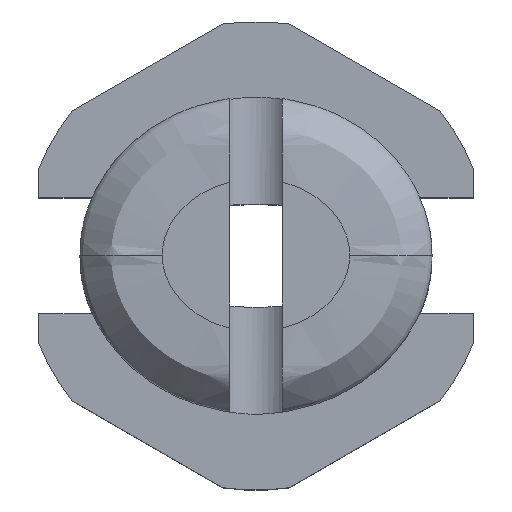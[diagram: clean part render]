
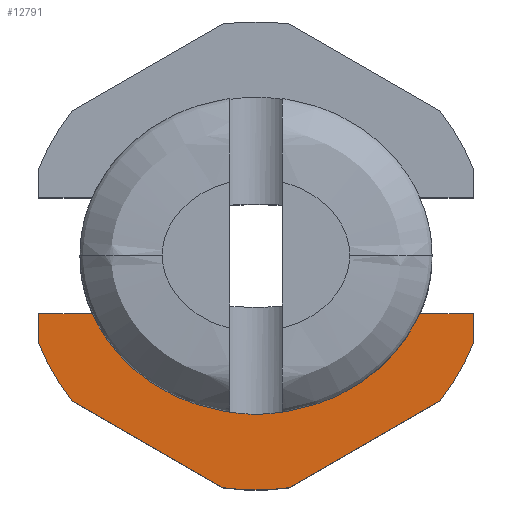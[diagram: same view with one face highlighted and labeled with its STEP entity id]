
A CAD part, top view. The second image highlights one B-rep face of the part: STEP entity #12791.
In plain terms, the highlighted planar face has unit normal (0, 0, 1).
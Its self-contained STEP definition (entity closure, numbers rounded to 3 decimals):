
#227 = CARTESIAN_POINT ( 'NONE',  ( 2.9, -0.774, 0.889 ) ) ;
#380 = LINE ( 'NONE', #7602, #3192 ) ;
#444 = CARTESIAN_POINT ( 'NONE',  ( 3.176, -0.774, 0.889 ) ) ;
#772 = CIRCLE ( 'NONE', #8379, 3.125 ) ;
#779 = LINE ( 'NONE', #12223, #12734 ) ;
#781 = CARTESIAN_POINT ( 'NONE',  ( 0.442, -3.094, 0.889 ) ) ;
#892 = EDGE_CURVE ( 'NONE', #2005, #7144, #380, .T. ) ;
#1186 = CARTESIAN_POINT ( 'NONE',  ( 0., 0., 0.889 ) ) ;
#1190 = PLANE ( 'NONE',  #6425 ) ;
#1276 = CARTESIAN_POINT ( 'NONE',  ( 0., 0., 0.889 ) ) ;
#1352 = EDGE_CURVE ( 'NONE', #10690, #3784, #8193, .T. ) ;
#1476 = CARTESIAN_POINT ( 'NONE',  ( 2.9, -1.164, 0.889 ) ) ;
#1608 = DIRECTION ( 'NONE',  ( 1., 0., 0. ) ) ;
#1837 = CARTESIAN_POINT ( 'NONE',  ( -2.9, -0.774, 0.889 ) ) ;
#2005 = VERTEX_POINT ( 'NONE', #1837 ) ;
#2204 = CARTESIAN_POINT ( 'NONE',  ( 2.458, -1.929, 0.889 ) ) ;
#2494 = DIRECTION ( 'NONE',  ( 1., 0., 0. ) ) ;
#2923 = AXIS2_PLACEMENT_3D ( 'NONE', #4046, #11343, #5201 ) ;
#3192 = VECTOR ( 'NONE', #1608, 1000. ) ;
#3567 = EDGE_CURVE ( 'NONE', #9324, #8695, #12497, .T. ) ;
#3694 = CARTESIAN_POINT ( 'NONE',  ( 1.968, -0.774, 0.889 ) ) ;
#3784 = VERTEX_POINT ( 'NONE', #10529 ) ;
#4041 = FACE_OUTER_BOUND ( 'NONE', #5809, .T. ) ;
#4046 = CARTESIAN_POINT ( 'NONE',  ( 0., 0., 0.889 ) ) ;
#4559 = ORIENTED_EDGE ( 'NONE', *, *, #892, .F. ) ;
#4574 = ORIENTED_EDGE ( 'NONE', *, *, #8787, .F. ) ;
#4934 = VERTEX_POINT ( 'NONE', #3694 ) ;
#5089 = AXIS2_PLACEMENT_3D ( 'NONE', #1276, #9514, #2494 ) ;
#5201 = DIRECTION ( 'NONE',  ( -1., 0., 0. ) ) ;
#5311 = VECTOR ( 'NONE', #7862, 1000. ) ;
#5329 = DIRECTION ( 'NONE',  ( -1., 0., 0. ) ) ;
#5333 = CARTESIAN_POINT ( 'NONE',  ( 0., 0., 0.889 ) ) ;
#5809 = EDGE_LOOP ( 'NONE', ( #4559, #4574, #6689, #11330, #12145, #10641, #11285, #6369, #12929, #13217 ) ) ;
#5926 = VERTEX_POINT ( 'NONE', #10004 ) ;
#6010 = DIRECTION ( 'NONE',  ( 0., 1., 0. ) ) ;
#6022 = EDGE_CURVE ( 'NONE', #8579, #9324, #11380, .T. ) ;
#6190 = VECTOR ( 'NONE', #11825, 1000. ) ;
#6369 = ORIENTED_EDGE ( 'NONE', *, *, #6723, .F. ) ;
#6425 = AXIS2_PLACEMENT_3D ( 'NONE', #5333, #12437, #9499 ) ;
#6628 = VECTOR ( 'NONE', #13385, 1000. ) ;
#6689 = ORIENTED_EDGE ( 'NONE', *, *, #3567, .F. ) ;
#6723 = EDGE_CURVE ( 'NONE', #9213, #5926, #11960, .T. ) ;
#7115 = CARTESIAN_POINT ( 'NONE',  ( -1.968, -0.774, 0.889 ) ) ;
#7144 = VERTEX_POINT ( 'NONE', #7115 ) ;
#7602 = CARTESIAN_POINT ( 'NONE',  ( -3.176, -0.774, 0.889 ) ) ;
#7862 = DIRECTION ( 'NONE',  ( 0., -1., 0. ) ) ;
#8193 = LINE ( 'NONE', #781, #6628 ) ;
#8379 = AXIS2_PLACEMENT_3D ( 'NONE', #9360, #11547, #13390 ) ;
#8579 = VERTEX_POINT ( 'NONE', #13452 ) ;
#8695 = VERTEX_POINT ( 'NONE', #11405 ) ;
#8787 = EDGE_CURVE ( 'NONE', #8695, #2005, #779, .T. ) ;
#9070 = EDGE_CURVE ( 'NONE', #3784, #8579, #11202, .T. ) ;
#9213 = VERTEX_POINT ( 'NONE', #227 ) ;
#9324 = VERTEX_POINT ( 'NONE', #10352 ) ;
#9360 = CARTESIAN_POINT ( 'NONE',  ( 0., 0., 0.889 ) ) ;
#9499 = DIRECTION ( 'NONE',  ( -1., 0., 0. ) ) ;
#9514 = DIRECTION ( 'NONE',  ( 0., 0., 1. ) ) ;
#9621 = DIRECTION ( 'NONE',  ( 0., 0., -1. ) ) ;
#9702 = EDGE_CURVE ( 'NONE', #7144, #4934, #13386, .T. ) ;
#9720 = EDGE_CURVE ( 'NONE', #9213, #4934, #10676, .T. ) ;
#10004 = CARTESIAN_POINT ( 'NONE',  ( 2.9, -1.164, 0.889 ) ) ;
#10352 = CARTESIAN_POINT ( 'NONE',  ( -2.458, -1.929, 0.889 ) ) ;
#10502 = CARTESIAN_POINT ( 'NONE',  ( -2.458, -1.929, 0.889 ) ) ;
#10529 = CARTESIAN_POINT ( 'NONE',  ( 0.442, -3.094, 0.889 ) ) ;
#10641 = ORIENTED_EDGE ( 'NONE', *, *, #1352, .F. ) ;
#10676 = LINE ( 'NONE', #444, #6190 ) ;
#10690 = VERTEX_POINT ( 'NONE', #2204 ) ;
#11202 = CIRCLE ( 'NONE', #12952, 3.125 ) ;
#11285 = ORIENTED_EDGE ( 'NONE', *, *, #12751, .F. ) ;
#11330 = ORIENTED_EDGE ( 'NONE', *, *, #6022, .F. ) ;
#11343 = DIRECTION ( 'NONE',  ( 0., 0., -1. ) ) ;
#11380 = LINE ( 'NONE', #10502, #12283 ) ;
#11405 = CARTESIAN_POINT ( 'NONE',  ( -2.9, -1.164, 0.889 ) ) ;
#11547 = DIRECTION ( 'NONE',  ( 0., 0., -1. ) ) ;
#11825 = DIRECTION ( 'NONE',  ( -1., 0., 0. ) ) ;
#11960 = LINE ( 'NONE', #1476, #5311 ) ;
#12145 = ORIENTED_EDGE ( 'NONE', *, *, #9070, .F. ) ;
#12223 = CARTESIAN_POINT ( 'NONE',  ( -2.9, 1.164, 0.889 ) ) ;
#12283 = VECTOR ( 'NONE', #13432, 1000. ) ;
#12437 = DIRECTION ( 'NONE',  ( 0., 0., -1. ) ) ;
#12497 = CIRCLE ( 'NONE', #2923, 3.125 ) ;
#12734 = VECTOR ( 'NONE', #6010, 1000. ) ;
#12751 = EDGE_CURVE ( 'NONE', #5926, #10690, #772, .T. ) ;
#12791 = ADVANCED_FACE ( 'NONE', ( #4041 ), #1190, .F. ) ;
#12929 = ORIENTED_EDGE ( 'NONE', *, *, #9720, .T. ) ;
#12952 = AXIS2_PLACEMENT_3D ( 'NONE', #1186, #9621, #5329 ) ;
#13217 = ORIENTED_EDGE ( 'NONE', *, *, #9702, .F. ) ;
#13385 = DIRECTION ( 'NONE',  ( -0.866, -0.5, 0. ) ) ;
#13386 = CIRCLE ( 'NONE', #5089, 2.115 ) ;
#13390 = DIRECTION ( 'NONE',  ( -1., 0., 0. ) ) ;
#13432 = DIRECTION ( 'NONE',  ( -0.866, 0.5, 0. ) ) ;
#13452 = CARTESIAN_POINT ( 'NONE',  ( -0.442, -3.094, 0.889 ) ) ;
